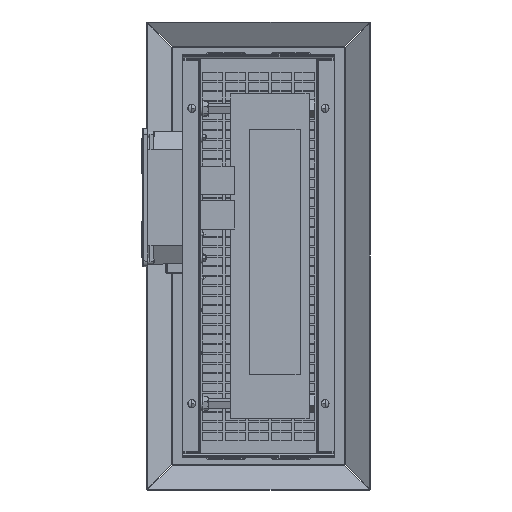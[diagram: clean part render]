
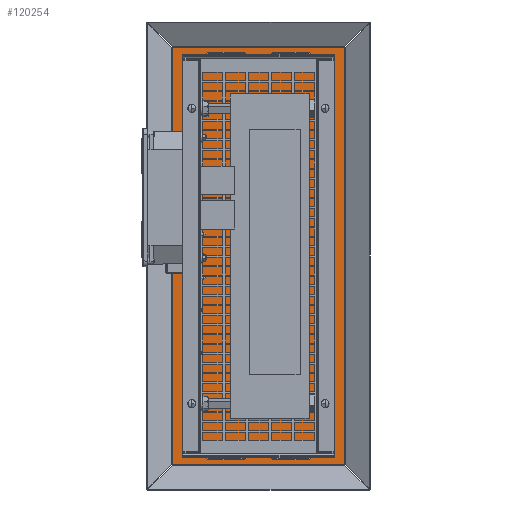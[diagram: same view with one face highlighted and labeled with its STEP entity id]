
A CAD part, front view. The second image highlights one B-rep face of the part: STEP entity #120254.
In plain terms, the highlighted planar face has unit normal (0, -1, 0).
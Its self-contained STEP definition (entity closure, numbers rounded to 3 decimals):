
#3663=FACE_BOUND('',#19511,.T.);
#3664=FACE_BOUND('',#19512,.T.);
#3665=FACE_BOUND('',#19513,.T.);
#3666=FACE_BOUND('',#19514,.T.);
#6525=PLANE('',#127276);
#12631=FACE_OUTER_BOUND('',#19510,.T.);
#19510=EDGE_LOOP('',(#93347,#93348,#93349,#93350,#93351,#93352,#93353,#93354,
#93355,#93356,#93357,#93358));
#19511=EDGE_LOOP('',(#93359));
#19512=EDGE_LOOP('',(#93360));
#19513=EDGE_LOOP('',(#93361));
#19514=EDGE_LOOP('',(#93362));
#23903=CIRCLE('',#127164,7.5);
#23911=CIRCLE('',#127177,7.5);
#23919=CIRCLE('',#127189,7.5);
#23924=CIRCLE('',#127197,7.5);
#32148=LINE('',#189488,#43856);
#32151=LINE('',#189494,#43859);
#32154=LINE('',#189500,#43862);
#32157=LINE('',#189506,#43865);
#32159=LINE('',#189510,#43867);
#32161=LINE('',#189514,#43869);
#32163=LINE('',#189518,#43871);
#32165=LINE('',#189522,#43873);
#32178=LINE('',#189556,#43886);
#32191=LINE('',#189590,#43899);
#32204=LINE('',#189624,#43912);
#32217=LINE('',#189658,#43925);
#43856=VECTOR('',#146559,10.);
#43859=VECTOR('',#146564,10.);
#43862=VECTOR('',#146569,10.);
#43865=VECTOR('',#146574,10.);
#43867=VECTOR('',#146578,10.);
#43869=VECTOR('',#146582,10.);
#43871=VECTOR('',#146586,10.);
#43873=VECTOR('',#146590,10.);
#43886=VECTOR('',#146629,10.);
#43899=VECTOR('',#146668,10.);
#43912=VECTOR('',#146707,10.);
#43925=VECTOR('',#146746,10.);
#54704=VERTEX_POINT('',#189384);
#54709=VERTEX_POINT('',#189404);
#54716=VERTEX_POINT('',#189425);
#54720=VERTEX_POINT('',#189439);
#54739=VERTEX_POINT('',#189484);
#54740=VERTEX_POINT('',#189486);
#54741=VERTEX_POINT('',#189490);
#54742=VERTEX_POINT('',#189492);
#54743=VERTEX_POINT('',#189496);
#54744=VERTEX_POINT('',#189498);
#54745=VERTEX_POINT('',#189502);
#54746=VERTEX_POINT('',#189504);
#54747=VERTEX_POINT('',#189508);
#54748=VERTEX_POINT('',#189512);
#54749=VERTEX_POINT('',#189516);
#54750=VERTEX_POINT('',#189520);
#68358=EDGE_CURVE('',#54704,#54704,#23903,.T.);
#68368=EDGE_CURVE('',#54709,#54709,#23911,.T.);
#68378=EDGE_CURVE('',#54716,#54716,#23919,.T.);
#68385=EDGE_CURVE('',#54720,#54720,#23924,.T.);
#68409=EDGE_CURVE('',#54739,#54740,#32148,.T.);
#68412=EDGE_CURVE('',#54741,#54742,#32151,.T.);
#68415=EDGE_CURVE('',#54743,#54744,#32154,.T.);
#68418=EDGE_CURVE('',#54745,#54746,#32157,.T.);
#68420=EDGE_CURVE('',#54742,#54747,#32159,.T.);
#68422=EDGE_CURVE('',#54744,#54748,#32161,.T.);
#68424=EDGE_CURVE('',#54746,#54749,#32163,.T.);
#68426=EDGE_CURVE('',#54740,#54750,#32165,.T.);
#68443=EDGE_CURVE('',#54747,#54739,#32178,.T.);
#68460=EDGE_CURVE('',#54748,#54741,#32191,.T.);
#68477=EDGE_CURVE('',#54749,#54743,#32204,.T.);
#68494=EDGE_CURVE('',#54750,#54745,#32217,.T.);
#93347=ORIENTED_EDGE('',*,*,#68426,.T.);
#93348=ORIENTED_EDGE('',*,*,#68494,.T.);
#93349=ORIENTED_EDGE('',*,*,#68418,.T.);
#93350=ORIENTED_EDGE('',*,*,#68424,.T.);
#93351=ORIENTED_EDGE('',*,*,#68477,.T.);
#93352=ORIENTED_EDGE('',*,*,#68415,.T.);
#93353=ORIENTED_EDGE('',*,*,#68422,.T.);
#93354=ORIENTED_EDGE('',*,*,#68460,.T.);
#93355=ORIENTED_EDGE('',*,*,#68412,.T.);
#93356=ORIENTED_EDGE('',*,*,#68420,.T.);
#93357=ORIENTED_EDGE('',*,*,#68443,.T.);
#93358=ORIENTED_EDGE('',*,*,#68409,.T.);
#93359=ORIENTED_EDGE('',*,*,#68385,.T.);
#93360=ORIENTED_EDGE('',*,*,#68378,.T.);
#93361=ORIENTED_EDGE('',*,*,#68368,.T.);
#93362=ORIENTED_EDGE('',*,*,#68358,.T.);
#120254=ADVANCED_FACE('',(#12631,#3663,#3664,#3665,#3666),#6525,.F.);
#127164=AXIS2_PLACEMENT_3D('',#189385,#146447,#146448);
#127177=AXIS2_PLACEMENT_3D('',#189405,#146475,#146476);
#127189=AXIS2_PLACEMENT_3D('',#189426,#146501,#146502);
#127197=AXIS2_PLACEMENT_3D('',#189440,#146519,#146520);
#127276=AXIS2_PLACEMENT_3D('',#189675,#146767,#146768);
#146447=DIRECTION('center_axis',(0.,1.,0.));
#146448=DIRECTION('ref_axis',(-0.795,0.,
-0.607));
#146475=DIRECTION('center_axis',(0.,1.,0.));
#146476=DIRECTION('ref_axis',(0.996,0.,0.09));
#146501=DIRECTION('center_axis',(0.,1.,0.));
#146502=DIRECTION('ref_axis',(-0.73,0.,
0.684));
#146519=DIRECTION('center_axis',(0.,1.,0.));
#146520=DIRECTION('ref_axis',(-0.403,0.,
-0.915));
#146559=DIRECTION('',(-1.,0.,0.));
#146564=DIRECTION('',(0.,0.,1.));
#146569=DIRECTION('',(1.,0.,0.));
#146574=DIRECTION('',(0.,0.,-1.));
#146578=DIRECTION('',(-1.,0.,0.));
#146582=DIRECTION('',(0.,0.,1.));
#146586=DIRECTION('',(1.,0.,0.));
#146590=DIRECTION('',(0.,0.,-1.));
#146629=DIRECTION('',(-1.,0.,0.));
#146668=DIRECTION('',(0.,0.,1.));
#146707=DIRECTION('',(1.,0.,0.));
#146746=DIRECTION('',(0.,0.,-1.));
#146767=DIRECTION('center_axis',(0.,1.,0.));
#146768=DIRECTION('ref_axis',(0.,0.,
1.));
#189384=CARTESIAN_POINT('',(-191.54,83.5,461.553));
#189385=CARTESIAN_POINT('Origin',(-197.5,83.5,457.));
#189404=CARTESIAN_POINT('',(-19.97,83.5,456.326));
#189405=CARTESIAN_POINT('Origin',(-12.5,83.5,457.));
#189425=CARTESIAN_POINT('',(-7.027,83.5,41.872));
#189426=CARTESIAN_POINT('Origin',(-12.5,83.5,47.));
#189439=CARTESIAN_POINT('',(-194.48,83.5,53.865));
#189440=CARTESIAN_POINT('Origin',(-197.5,83.5,47.));
#189484=CARTESIAN_POINT('',(-224.647,83.5,541.824));
#189486=CARTESIAN_POINT('',(-224.854,83.5,541.824));
#189488=CARTESIAN_POINT('',(-45.073,83.5,541.824));
#189490=CARTESIAN_POINT('',(14.854,83.5,541.617));
#189492=CARTESIAN_POINT('',(14.854,83.5,541.824));
#189494=CARTESIAN_POINT('',(14.854,83.5,107.088));
#189496=CARTESIAN_POINT('',(14.647,83.5,-37.824));
#189498=CARTESIAN_POINT('',(14.854,83.5,-37.824));
#189500=CARTESIAN_POINT('',(-164.927,83.5,-37.824));
#189502=CARTESIAN_POINT('',(-224.854,83.5,-37.617));
#189504=CARTESIAN_POINT('',(-224.854,83.5,-37.824));
#189506=CARTESIAN_POINT('',(-224.854,83.5,396.912));
#189508=CARTESIAN_POINT('',(14.647,83.5,541.824));
#189510=CARTESIAN_POINT('',(-45.073,83.5,541.824));
#189512=CARTESIAN_POINT('',(14.854,83.5,-37.617));
#189514=CARTESIAN_POINT('',(14.854,83.5,107.088));
#189516=CARTESIAN_POINT('',(-224.647,83.5,-37.824));
#189518=CARTESIAN_POINT('',(-164.927,83.5,-37.824));
#189520=CARTESIAN_POINT('',(-224.854,83.5,541.617));
#189522=CARTESIAN_POINT('',(-224.854,83.5,396.912));
#189556=CARTESIAN_POINT('',(-45.073,83.5,541.824));
#189590=CARTESIAN_POINT('',(14.854,83.5,107.088));
#189624=CARTESIAN_POINT('',(-164.927,83.5,-37.824));
#189658=CARTESIAN_POINT('',(-224.854,83.5,396.912));
#189675=CARTESIAN_POINT('Origin',(-105.,83.5,252.));
